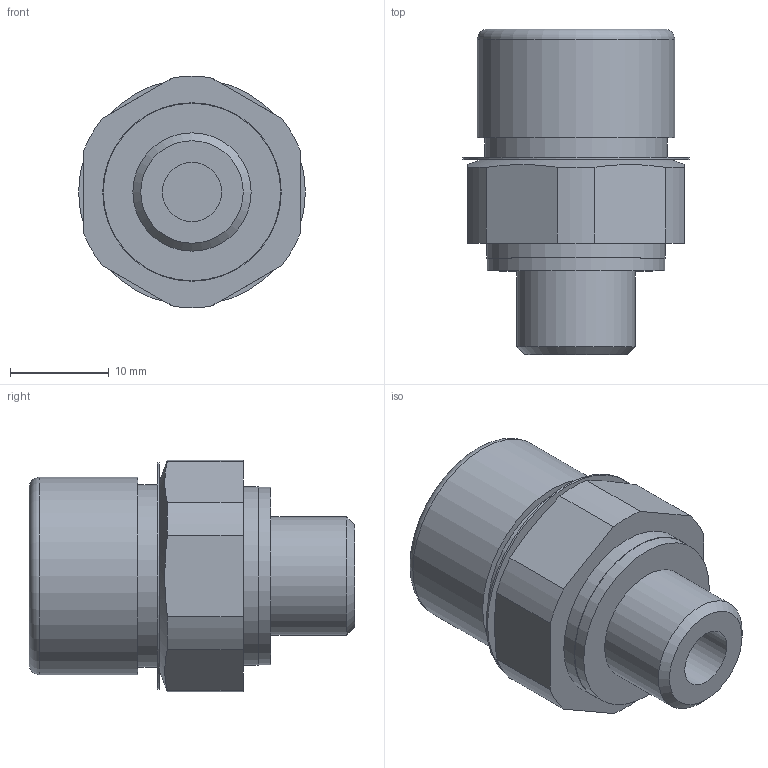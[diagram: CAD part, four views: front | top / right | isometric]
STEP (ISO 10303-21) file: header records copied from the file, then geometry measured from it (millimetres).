
FILE_DESCRIPTION( ( 'STEP AP203' ), '1' );
FILE_NAME( 'C:/Temp/Ganter_Step_05_03_2020/data/3_5/gn882/Breather filters GN 882-M12x1,5-MS-M.stp', '2020-03-12T13:42:39', ( 'License CC BY-ND 4.0' ), ( 'CADENAS' ), ' ', 'PARTsolutions', ' ' );
FILE_SCHEMA( ( 'CONFIG_CONTROL_DESIGN' ) );
Length unit declared in the file: millimetre
Products named in the file (1): _Breather filters GN 882-M12x1,5-MS-M
Bounding box: 23 x 33 x 23.46 mm (x, y, z)
Volume: 8729.8 mm3; surface area: 3325.3 mm2
Topology: 1 solids, 1 shells, 34 faces, 70 edges, 46 vertices
Faces by surface type: plane 16, cylinder 14, cone 3, torus 1
Full cylindrical faces by diameter (mm): 6 x1, 12 x1, 18 x1, 18.1 x1, 18.5 x1, 19 x1, 20 x1, 23 x1
Entity records: 890 total; most frequent: CARTESIAN_POINT 161, DIRECTION 152, ORIENTED_EDGE 112, AXIS2_PLACEMENT_3D 67, EDGE_CURVE 56, EDGE_LOOP 54, VERTEX_POINT 44, FACE_OUTER_BOUND 43
